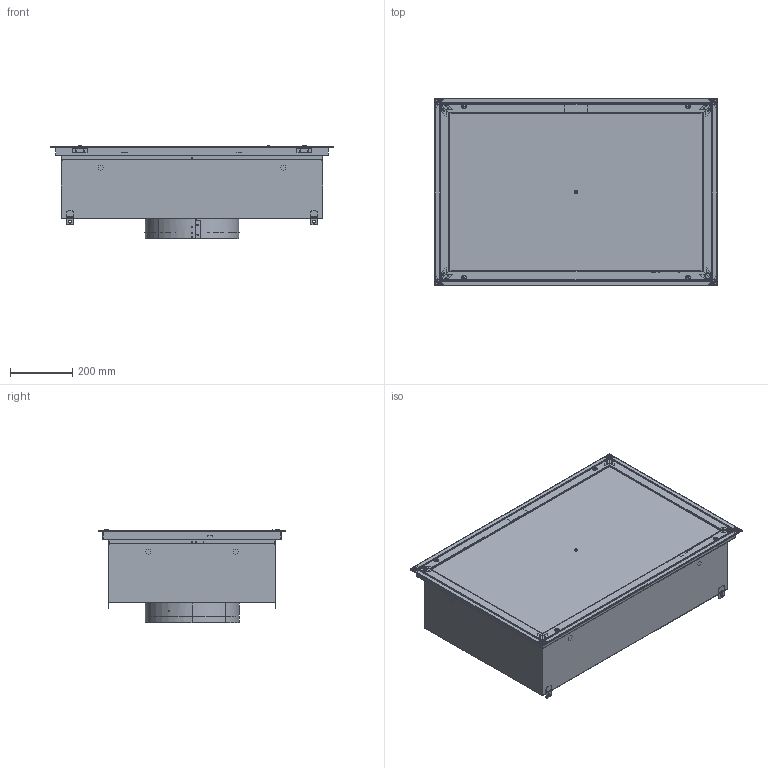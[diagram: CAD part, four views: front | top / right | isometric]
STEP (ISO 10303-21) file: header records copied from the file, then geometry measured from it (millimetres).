
FILE_DESCRIPTION (( 'STEP AP214' ), '1' );
FILE_NAME ('36 X 24_SSLFHFD_NO LED.STEP', '2025-07-25T16:00:38', ( '' ), ( '' ), 'SwSTEP 2.0', 'SolidWorks 2024', '' );
FILE_SCHEMA (( 'AUTOMOTIVE_DESIGN' ));
Length unit declared in the file: inch
Products named in the file (52): 060525-HFDs_FC3E_L04; 060525-HFDs_SAFETYCABLEASSEMBLY_L04; 060525-HFDs_FP1B20-A2_L04; 060525-HFDs_H1Z25_L04_LABEL; "CHALLENGE."; 060525-HFDs_H2E2_L04_WELD CLIP, BOB FRAME; 060525-HFDs_P1B1B_L04; 060525-HFDs_FC3E-A2_L04; 060525-HFDs_H2E1_L04_WELD CLIP; 40º BEVEL FRAME; 060525-HFDs_H1T2_L04; 060525-HFDs_FP1B_L04; 060525-HFDs_FC3E-A1_L04; 060525-HFDs_R2B1 SUB_L04; 060525-HFDs_H2E11_L04_GUIDE, HEPA FILTER, SWING ARM; 060525-HFDs_C1C1C112_L04; 060525-HFDs_H2G12_L04; 060525-HFDs_H1V7_L04_WASHER, TEFLON: 0.50"OD x 0.25"ID x 0.025"th; 060525-HFDs_H1E1_L04; 060525-HFDs_PLASTER SUB_L04; 060525-HFDs_K2A1_L04; 060525-HFDs_P1B1B SUB_L04; 060525-HFDs_FC3E-A3_L04; 060525-HFDs_H1N2_L04; 060525-HFDs_SSRD_L04; 060525-HFDs_SM3X4_L04; 060525-HFDs_H1V31_L04_WASHER, TEFLON: 0.50"OD x 0.25"ID x 0.025"th; 060525-HFDs_H1L1_L04; 060525-HFDs_H1T7_L04_9531K23; 060525-HFDs_H1B4_L04; 060525-HFDs_H1B8_L04; 060525-HFDs_FP1B20-A1_L04; 060525-HFDs_H1E3_L04; 060525-HFDs_H1T3_L04_GROMMET, BLADE; 060525-HFDs_H1P11_L04; 060525-HFDs_BM5D_L04; 060525-HFDs_PERF SUB_L04; 060525-HFDs_H1Z24_L04; 060525-HFDs_H2E5_L04; 060525-HFDs_FACE SUB_L04; 060525-HFDs_R2B1_L04; 060525-HFDs_FP1B20-A3_L04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
Assembly tree (96 placements, depth 5):
  36 X 24_SSLFHFD_NO LED
    060525-HFDs_PLASTER SUB_L04
      060525-HFDs_FC3E_L04
        060525-HFDs_FC3E-A1_L04
        060525-HFDs_FC3E-A2_L04
        060525-HFDs_FC3E-A3_L04
        060525-HFDs_FC3E-A4_L04
        060525-HFDs_H2E2_L04_WELD CLIP, BOB FRAME  x4
        060525-HFDs_H2G12_L04  x4
        060525-HFDs_H1F1_L04_1_4 TURN SPRING  x4
        060525-HFDs_H2E11_L04_GUIDE, HEPA FILTER, SWING ARM  x6
        060525-HFDs_H2E12_L04_CLIP, HEPA FILTER, SWING ARM  x6
        060525-HFDs_H1V31_L04_WASHER, TEFLON: 0.50"OD x 0.25"ID x 0.025"th  x6
        060525-HFDs_H1Z25_L04_LABEL; "CHALLENGE."
        060525-HFDs_H1Z26_L04_LABEL; "CONCENTRATION"
      060525-HFDs_PORT-SUB_L04  x2
        060525-HFDs_H1P11_L04
        060525-HFDs_H1T7_L04_9531K23
    060525-HFDs_FACE SUB_L04
      060525-HFDs_FP1B_L04
        060525-HFDs_FP1B20-A1_L04
        060525-HFDs_FP1B20-A2_L04
        060525-HFDs_FP1B20-A3_L04
        060525-HFDs_FP1B20-A4_L04
        060525-HFDs_H2E1_L04_WELD CLIP; 40º BEVEL FRAME  x4
        060525-HFDs_H1E1_L04  x4
        060525-HFDs_H1E2_L04  x4
        060525-HFDs_SAFETYCABLEASSEMBLY_L04  x2
          060525-HFDs_H1N2_L04
          060525-HFDs_H1E3_L04
        060525-HFDs_H1Z24_L04
    060525-HFDs_PERF SUB_L04
      060525-HFDs_H1T2_L04
      060525-HFDs_R2B1 SUB_L04
        060525-HFDs_R2B1_L04
    060525-HFDs_PLENUM MASTER_L04
      060525-HFDs_P1B1B SUB_L04
        060525-HFDs_P1B1B_L04
        060525-HFDs_H2E5_L04  x4
    060525-HFDs_C1C1C112_L04
    060525-HFDs_SSRD_L04
      060525-HFDs_H1L1_L04  x4
      060525-HFDs_BM5D_L04  x2
      060525-HFDs_SM2X3_L04
      060525-HFDs_SM3X4_L04
      060525-HFDs_H1A2_L04
      060525-HFDs_H1B4_L04
      060525-HFDs_H1V7_L04_WASHER, TEFLON: 0.50"OD x 0.25"ID x 0.025"th  x2
      060525-HFDs_K2A2_L04  x2
      060525-HFDs_H1T3_L04_GROMMET, BLADE  x2
      060525-HFDs_K2A1_L04
      060525-HFDs_H1B8_L04
Bounding box: 908.05 x 603.25 x 299.81 mm (x, y, z)
Volume: 1740755.9 mm3; surface area: 4146438.2 mm2
Topology: 103 solids, 103 shells, 3320 faces, 8134 edges, 5113 vertices
Faces by surface type: plane 1579, cylinder 1222, torus 248, bspline 205, cone 44, sphere 22
Entity records: 64500 total; most frequent: CARTESIAN_POINT 19606, ORIENTED_EDGE 8954, DIRECTION 8845, EDGE_CURVE 4477, AXIS2_PLACEMENT_3D 3171, VERTEX_POINT 2801, VECTOR 2503, LINE 2503
